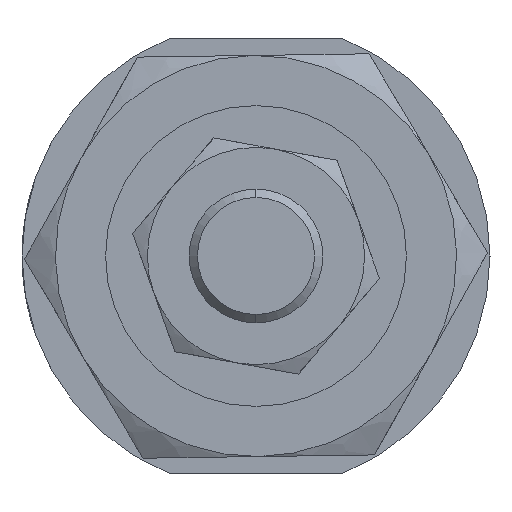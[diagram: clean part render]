
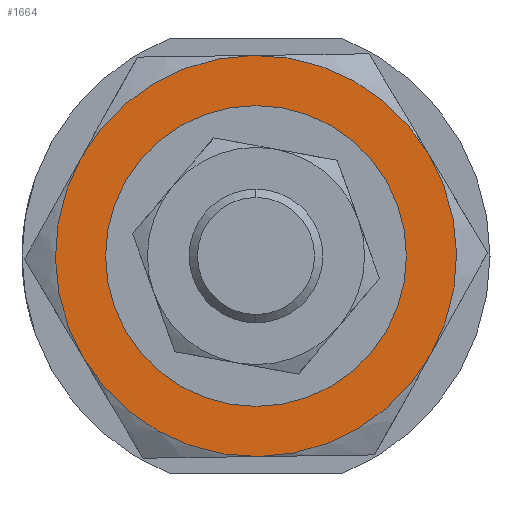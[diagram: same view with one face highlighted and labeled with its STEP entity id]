
A CAD part, left-side view. The second image highlights one B-rep face of the part: STEP entity #1664.
In plain terms, the highlighted planar face has unit normal (-1, 0, 0) as drawn and (0, 0, -1) by its records, which use the part's own axes.
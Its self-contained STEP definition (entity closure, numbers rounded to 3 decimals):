
#1 = CIRCLE ( 'NONE', #1464, 12. ) ;
#149 = DIRECTION ( 'NONE',  ( 0., 0., 1. ) ) ;
#167 = EDGE_CURVE ( 'NONE', #2112, #2658, #449, .T. ) ;
#209 = AXIS2_PLACEMENT_3D ( 'NONE', #563, #594, #798 ) ;
#254 = CIRCLE ( 'NONE', #393, 12. ) ;
#292 = ORIENTED_EDGE ( 'NONE', *, *, #649, .F. ) ;
#306 = DIRECTION ( 'NONE',  ( 1., 0., 0. ) ) ;
#331 = EDGE_CURVE ( 'NONE', #667, #1588, #2560, .T. ) ;
#341 = DIRECTION ( 'NONE',  ( 0., 0., 1. ) ) ;
#343 = FACE_BOUND ( 'NONE', #2108, .T. ) ;
#389 = AXIS2_PLACEMENT_3D ( 'NONE', #1776, #2233, #2457 ) ;
#393 = AXIS2_PLACEMENT_3D ( 'NONE', #2016, #793, #306 ) ;
#449 = CIRCLE ( 'NONE', #1857, 12. ) ;
#563 = CARTESIAN_POINT ( 'NONE',  ( 0., 0., -4. ) ) ;
#574 = EDGE_CURVE ( 'NONE', #2088, #1205, #2821, .T. ) ;
#594 = DIRECTION ( 'NONE',  ( 0., 0., 1. ) ) ;
#596 = ORIENTED_EDGE ( 'NONE', *, *, #2954, .F. ) ;
#622 = ORIENTED_EDGE ( 'NONE', *, *, #167, .F. ) ;
#640 = EDGE_CURVE ( 'NONE', #1205, #2088, #1784, .T. ) ;
#649 = EDGE_CURVE ( 'NONE', #2658, #1575, #2756, .T. ) ;
#667 = VERTEX_POINT ( 'NONE', #1284 ) ;
#705 = AXIS2_PLACEMENT_3D ( 'NONE', #2058, #2047, #1119 ) ;
#710 = CARTESIAN_POINT ( 'NONE',  ( -6., -10.392, -4. ) ) ;
#793 = DIRECTION ( 'NONE',  ( 0., 0., 1. ) ) ;
#798 = DIRECTION ( 'NONE',  ( 1., 0., 0. ) ) ;
#970 = AXIS2_PLACEMENT_3D ( 'NONE', #1836, #149, #2323 ) ;
#1061 = DIRECTION ( 'NONE',  ( 0., 0., 1. ) ) ;
#1105 = CARTESIAN_POINT ( 'NONE',  ( 8.25, 0., -4. ) ) ;
#1119 = DIRECTION ( 'NONE',  ( 1., 0., 0. ) ) ;
#1136 = AXIS2_PLACEMENT_3D ( 'NONE', #1318, #341, #1274 ) ;
#1205 = VERTEX_POINT ( 'NONE', #1105 ) ;
#1274 = DIRECTION ( 'NONE',  ( 1., 0., 0. ) ) ;
#1284 = CARTESIAN_POINT ( 'NONE',  ( 6., 10.392, -4. ) ) ;
#1294 = CARTESIAN_POINT ( 'NONE',  ( 0., 0., -4. ) ) ;
#1318 = CARTESIAN_POINT ( 'NONE',  ( 0., 0., -4. ) ) ;
#1464 = AXIS2_PLACEMENT_3D ( 'NONE', #1294, #2467, #2706 ) ;
#1558 = ORIENTED_EDGE ( 'NONE', *, *, #2310, .F. ) ;
#1575 = VERTEX_POINT ( 'NONE', #2464 ) ;
#1588 = VERTEX_POINT ( 'NONE', #2004 ) ;
#1624 = CARTESIAN_POINT ( 'NONE',  ( 12., 0., -4. ) ) ;
#1664 = ADVANCED_FACE ( 'NONE', ( #343, #2772 ), #2535, .F. ) ;
#1719 = EDGE_CURVE ( 'NONE', #1575, #2019, #254, .T. ) ;
#1755 = ORIENTED_EDGE ( 'NONE', *, *, #1719, .F. ) ;
#1776 = CARTESIAN_POINT ( 'NONE',  ( 0., 0., -4. ) ) ;
#1784 = CIRCLE ( 'NONE', #209, 8.25 ) ;
#1798 = DIRECTION ( 'NONE',  ( 1., 0., 0. ) ) ;
#1835 = ORIENTED_EDGE ( 'NONE', *, *, #331, .F. ) ;
#1836 = CARTESIAN_POINT ( 'NONE',  ( 0., 0., -4. ) ) ;
#1857 = AXIS2_PLACEMENT_3D ( 'NONE', #2014, #2524, #1798 ) ;
#2004 = CARTESIAN_POINT ( 'NONE',  ( -6., 10.392, -4. ) ) ;
#2014 = CARTESIAN_POINT ( 'NONE',  ( 0., 0., -4. ) ) ;
#2016 = CARTESIAN_POINT ( 'NONE',  ( 0., 0., -4. ) ) ;
#2019 = VERTEX_POINT ( 'NONE', #1624 ) ;
#2047 = DIRECTION ( 'NONE',  ( 0., 0., 1. ) ) ;
#2058 = CARTESIAN_POINT ( 'NONE',  ( 0., 0., -4. ) ) ;
#2088 = VERTEX_POINT ( 'NONE', #2563 ) ;
#2108 = EDGE_LOOP ( 'NONE', ( #2797, #2788 ) ) ;
#2112 = VERTEX_POINT ( 'NONE', #2136 ) ;
#2136 = CARTESIAN_POINT ( 'NONE',  ( -12., 0., -4. ) ) ;
#2143 = AXIS2_PLACEMENT_3D ( 'NONE', #2915, #1061, #2714 ) ;
#2233 = DIRECTION ( 'NONE',  ( 0., 0., 1. ) ) ;
#2310 = EDGE_CURVE ( 'NONE', #1588, #2112, #2854, .T. ) ;
#2323 = DIRECTION ( 'NONE',  ( 1., 0., 0. ) ) ;
#2457 = DIRECTION ( 'NONE',  ( 1., 0., 0. ) ) ;
#2464 = CARTESIAN_POINT ( 'NONE',  ( 6., -10.392, -4. ) ) ;
#2467 = DIRECTION ( 'NONE',  ( 0., 0., 1. ) ) ;
#2524 = DIRECTION ( 'NONE',  ( 0., 0., 1. ) ) ;
#2535 = PLANE ( 'NONE',  #705 ) ;
#2560 = CIRCLE ( 'NONE', #970, 12. ) ;
#2563 = CARTESIAN_POINT ( 'NONE',  ( -8.25, 0., -4. ) ) ;
#2658 = VERTEX_POINT ( 'NONE', #710 ) ;
#2706 = DIRECTION ( 'NONE',  ( 1., 0., 0. ) ) ;
#2714 = DIRECTION ( 'NONE',  ( 1., 0., 0. ) ) ;
#2756 = CIRCLE ( 'NONE', #389, 12. ) ;
#2768 = EDGE_LOOP ( 'NONE', ( #596, #1755, #292, #622, #1558, #1835 ) ) ;
#2772 = FACE_OUTER_BOUND ( 'NONE', #2768, .T. ) ;
#2788 = ORIENTED_EDGE ( 'NONE', *, *, #574, .T. ) ;
#2797 = ORIENTED_EDGE ( 'NONE', *, *, #640, .T. ) ;
#2821 = CIRCLE ( 'NONE', #1136, 8.25 ) ;
#2854 = CIRCLE ( 'NONE', #2143, 12. ) ;
#2915 = CARTESIAN_POINT ( 'NONE',  ( 0., 0., -4. ) ) ;
#2954 = EDGE_CURVE ( 'NONE', #2019, #667, #1, .T. ) ;
